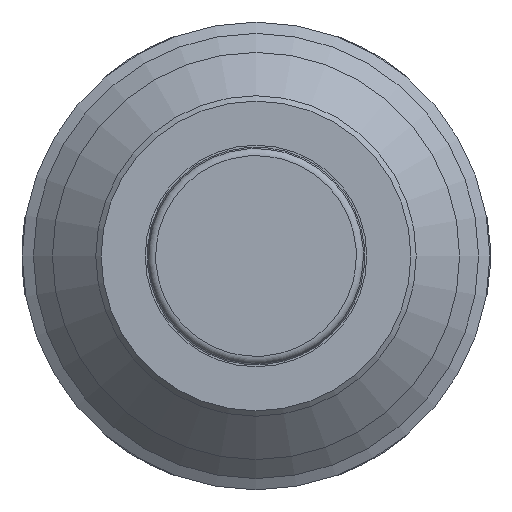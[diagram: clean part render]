
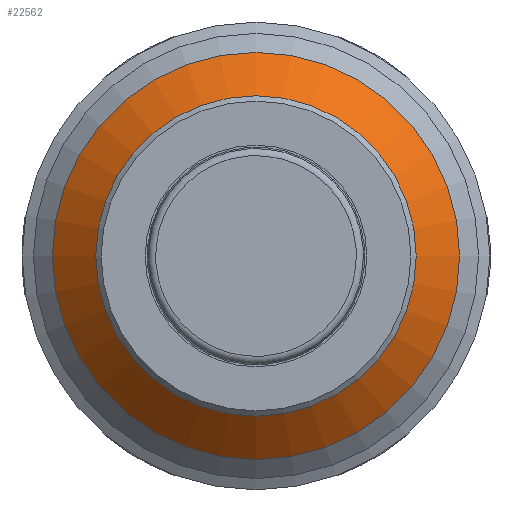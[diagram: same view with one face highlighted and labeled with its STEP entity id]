
A CAD part, front view. The second image highlights one B-rep face of the part: STEP entity #22562.
In plain terms, the highlighted conical face has half-angle 46.45 degrees and reference radius 17 mm.
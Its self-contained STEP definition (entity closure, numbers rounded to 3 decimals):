
#2325=CONICAL_SURFACE('',#23833,17.,0.811);
#2349=LINE('',#28277,#3761);
#3761=VECTOR('',#24874,17.);
#6567=FACE_OUTER_BOUND('',#7795,.T.);
#7795=EDGE_LOOP('',(#15341,#15342,#15343,#15344));
#9089=CIRCLE('',#23832,19.025);
#9090=CIRCLE('',#23834,14.975);
#9567=VERTEX_POINT('',#28272);
#9568=VERTEX_POINT('',#28276);
#11871=EDGE_CURVE('',#9567,#9567,#9089,.T.);
#11872=EDGE_CURVE('',#9567,#9568,#2349,.T.);
#11873=EDGE_CURVE('',#9568,#9568,#9090,.T.);
#15341=ORIENTED_EDGE('',*,*,#11871,.F.);
#15342=ORIENTED_EDGE('',*,*,#11872,.T.);
#15343=ORIENTED_EDGE('',*,*,#11873,.T.);
#15344=ORIENTED_EDGE('',*,*,#11872,.F.);
#22562=ADVANCED_FACE('',(#6567),#2325,.T.);
#23832=AXIS2_PLACEMENT_3D('',#28274,#24870,#24871);
#23833=AXIS2_PLACEMENT_3D('',#28275,#24872,#24873);
#23834=AXIS2_PLACEMENT_3D('',#28278,#24875,#24876);
#24870=DIRECTION('center_axis',(0.,1.,0.));
#24871=DIRECTION('ref_axis',(1.,0.,0.));
#24872=DIRECTION('center_axis',(0.,1.,0.));
#24873=DIRECTION('ref_axis',(-1.,0.,0.));
#24874=DIRECTION('',(-0.725,-0.689,0.));
#24875=DIRECTION('center_axis',(0.,1.,0.));
#24876=DIRECTION('ref_axis',(1.,0.,0.));
#28272=CARTESIAN_POINT('',(19.025,-8.15,0.));
#28274=CARTESIAN_POINT('Origin',(0.,-8.15,0.));
#28275=CARTESIAN_POINT('Origin',(0.,-10.075,0.));
#28276=CARTESIAN_POINT('',(14.975,-12.,0.));
#28277=CARTESIAN_POINT('',(17.,-10.075,0.));
#28278=CARTESIAN_POINT('Origin',(0.,-12.,0.));
